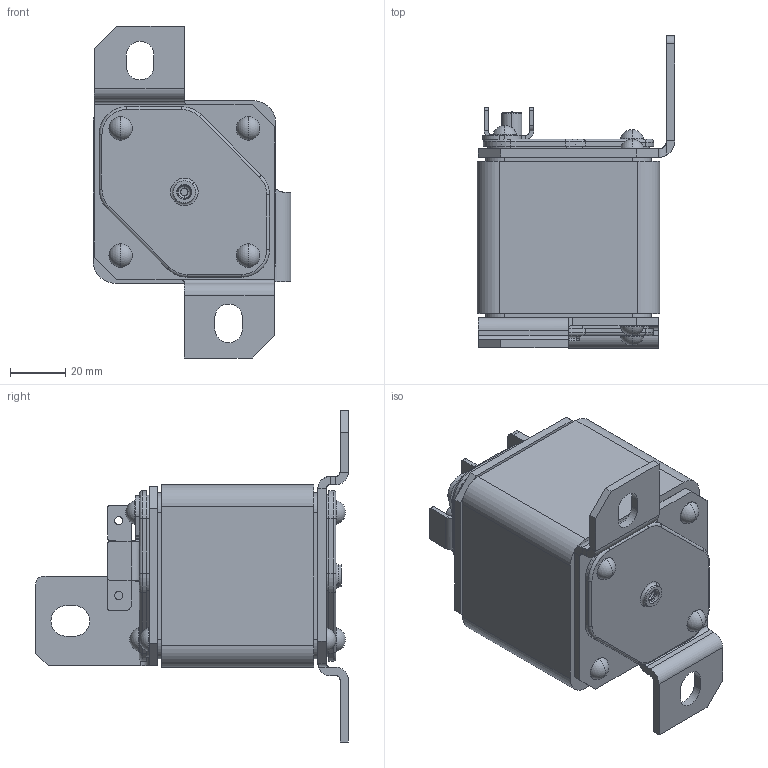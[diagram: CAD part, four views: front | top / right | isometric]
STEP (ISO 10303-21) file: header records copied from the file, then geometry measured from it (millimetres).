
FILE_DESCRIPTION (( 'STEP AP214' ), '1' );
FILE_NAME ('砎槼隰譇膻蠈錪 珫57-37382-迕-XXXA-XXXX-忡曖.STEP', '2023-05-11T11:56:41', ( '' ), ( '' ), 'SwSTEP 2.0', 'SolidWorks 2018', '' );
FILE_SCHEMA (( 'AUTOMOTIVE_DESIGN' ));
Length unit declared in the file: millimetre
Products named in the file (1): 砎槼隰譇膻蠈錪 珫57-37382-迕-XXXA-XXXX-忡曖
Bounding box: 71.5 x 113 x 120 mm (x, y, z)
Volume: 294125.3 mm3; surface area: 48123.2 mm2
Topology: 1 solids, 15 shells, 657 faces, 1587 edges, 980 vertices
Faces by surface type: plane 312, cylinder 237, torus 50, cone 40, sphere 18
Entity records: 27108 total; most frequent: CARTESIAN_POINT 4040, DIRECTION 3504, ORIENTED_EDGE 3174, EDGE_CURVE 1587, AXIS2_PLACEMENT_3D 1325, VERTEX_POINT 980, LINE 854, VECTOR 854
